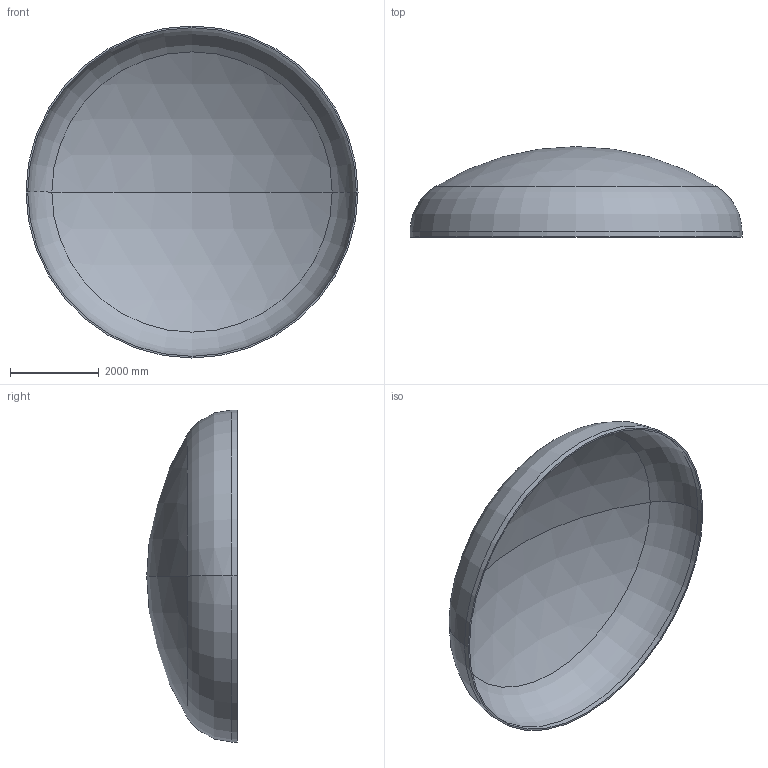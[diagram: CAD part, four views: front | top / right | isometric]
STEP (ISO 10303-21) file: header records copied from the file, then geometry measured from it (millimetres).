
FILE_DESCRIPTION (( 'STEP AP203' ), '1' );
FILE_NAME ('DIN 28013 Korbbogenform_-_Boden DIN 28013 - 7500 x 120 - I - s=38.step', '2016-07-04T10:53:35', ( '' ), ( '' ), 'SwSTEP 2.0', 'SolidWorks 2013', '' );
FILE_SCHEMA (( 'CONFIG_CONTROL_DESIGN' ));
Length unit declared in the file: millimetre
Products named in the file (1): DIN 28013 Korbbogenform_-_Boden DIN 28013 - 7500 x 120 - I - s=38
Bounding box: 7500 x 2042.69 x 7500 mm (x, y, z)
Volume: 2416553342.8 mm3; surface area: 128080809.6 mm2
Topology: 1 solids, 1 shells, 13 faces, 24 edges, 14 vertices
Faces by surface type: torus 4, cylinder 4, sphere 4, plane 1
Entity records: 407 total; most frequent: DIRECTION 72, CARTESIAN_POINT 52, ORIENTED_EDGE 48, AXIS2_PLACEMENT_3D 34, EDGE_CURVE 24, CIRCLE 20, VERTEX_POINT 14, EDGE_LOOP 14
